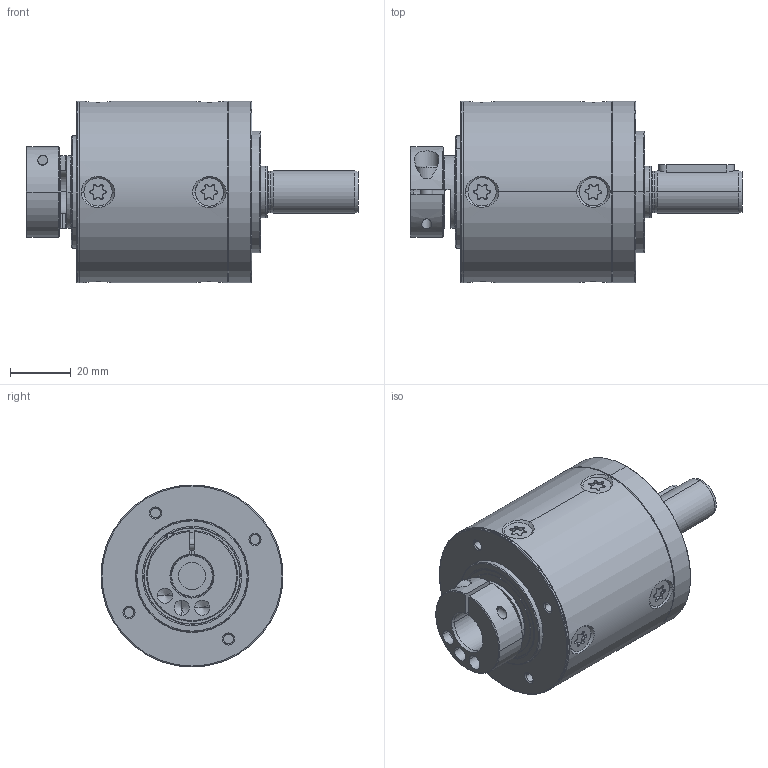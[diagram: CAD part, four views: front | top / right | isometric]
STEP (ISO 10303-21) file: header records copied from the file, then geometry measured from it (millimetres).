
FILE_DESCRIPTION (( 'STEP AP214' ), '1' );
FILE_NAME ('RPS060 1-ST.STEP', '2023-07-25T11:30:07', ( '' ), ( '' ), 'SwSTEP 2.0', 'SolidWorks 2021', '' );
FILE_SCHEMA (( 'AUTOMOTIVE_DESIGN' ));
Length unit declared in the file: millimetre
Products named in the file (1): RPS060 1-ST
Bounding box: 109.5 x 60 x 60 mm (x, y, z)
Volume: 177311.7 mm3; surface area: 24160.8 mm2
Topology: 1 solids, 17 shells, 616 faces, 1556 edges, 1011 vertices
Faces by surface type: cylinder 422, cone 103, plane 72, bspline 13, torus 6
Entity records: 27179 total; most frequent: CARTESIAN_POINT 6191, DIRECTION 3306, ORIENTED_EDGE 3092, EDGE_CURVE 1546, AXIS2_PLACEMENT_3D 1391, VERTEX_POINT 1011, CIRCLE 787, EDGE_LOOP 667
